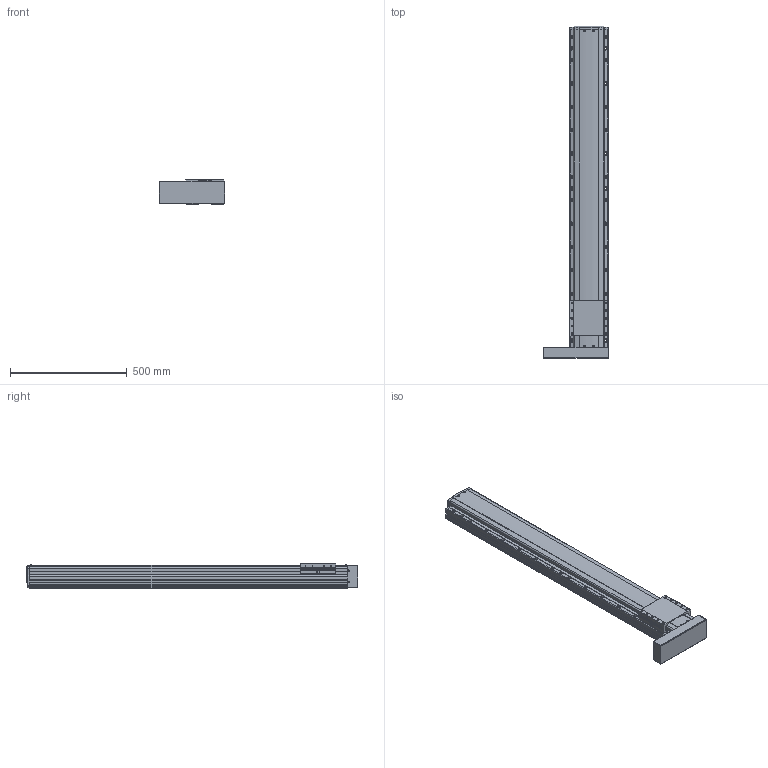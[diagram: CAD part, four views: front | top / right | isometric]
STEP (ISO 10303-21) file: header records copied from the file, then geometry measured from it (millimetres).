
FILE_DESCRIPTION(('STEP AP214'),'1');
FILE_NAME('Z:/Web/3D/PSA165/STP/PSA165-1100 (3D)/PSA165ㅁㅁ-1100PL.stp','2014-06-24T10:26:08',(' '),(' '),'Spatial InterOp 3D',' ',' ');
FILE_SCHEMA(('automotive_design'));
Length unit declared in the file: millimetre
Products named in the file (23): 스크루 : Round - M4.0 x 12.0; RRCV-PA160; BASE; 스크루 : Round - M4.0 x 10.0; RN15; Screw 20; SLIDE; FRCV; MTPL; 스크루 : Round - M3.0 x 6.0
Bounding box: 281.93 x 1420.8 x 104 mm (x, y, z)
Volume: 20064228 mm3; surface area: 1222069.3 mm2
Topology: 23 solids, 23 shells, 2127 faces, 5753 edges, 3657 vertices
Faces by surface type: plane 1108, cylinder 725, cone 209, sphere 44, bspline 25, torus 16
Entity records: 87027 total; most frequent: CARTESIAN_POINT 15838, DIRECTION 11339, ORIENTED_EDGE 11182, EDGE_CURVE 5591, AXIS2_PLACEMENT_3D 3852, VERTEX_POINT 3657, LINE 3635, VECTOR 3635
